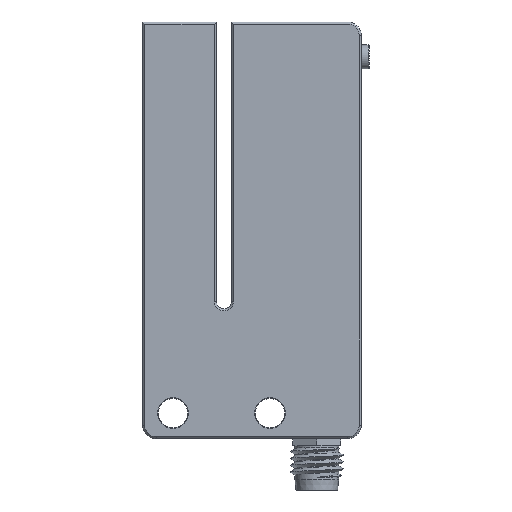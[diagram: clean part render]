
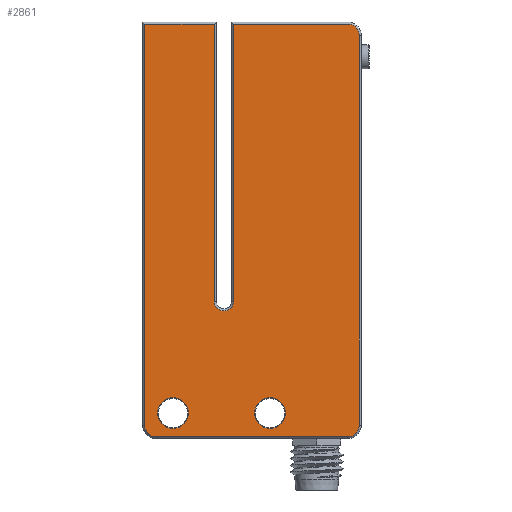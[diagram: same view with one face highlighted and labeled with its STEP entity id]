
A CAD part, front view. The second image highlights one B-rep face of the part: STEP entity #2861.
In plain terms, the highlighted planar face has unit normal (0, -1, 0).
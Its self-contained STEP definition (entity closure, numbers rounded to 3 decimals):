
#243=FACE_BOUND('',#807,.T.);
#244=FACE_BOUND('',#808,.T.);
#309=PLANE('',#3090);
#411=CIRCLE('',#3091,1.7);
#412=CIRCLE('',#3092,1.7);
#413=CIRCLE('',#3093,1.7);
#414=CIRCLE('',#3094,1.4);
#415=CIRCLE('',#3095,2.25);
#416=CIRCLE('',#3096,2.25);
#585=FACE_OUTER_BOUND('',#806,.T.);
#806=EDGE_LOOP('',(#2362,#2363,#2364,#2365,#2366,#2367,#2368,#2369,#2370,
#2371,#2372));
#807=EDGE_LOOP('',(#2373));
#808=EDGE_LOOP('',(#2374));
#1011=LINE('',#10009,#1235);
#1012=LINE('',#10011,#1236);
#1013=LINE('',#10013,#1237);
#1014=LINE('',#10017,#1238);
#1015=LINE('',#10021,#1239);
#1016=LINE('',#10025,#1240);
#1017=LINE('',#10027,#1241);
#1235=VECTOR('',#3615,40.6);
#1236=VECTOR('',#3616,10.2);
#1237=VECTOR('',#3617,58.7);
#1238=VECTOR('',#3620,28.);
#1239=VECTOR('',#3623,57.);
#1240=VECTOR('',#3626,16.7);
#1241=VECTOR('',#3627,40.6);
#1529=VERTEX_POINT('',#10007);
#1530=VERTEX_POINT('',#10008);
#1531=VERTEX_POINT('',#10010);
#1532=VERTEX_POINT('',#10012);
#1533=VERTEX_POINT('',#10014);
#1534=VERTEX_POINT('',#10016);
#1535=VERTEX_POINT('',#10018);
#1536=VERTEX_POINT('',#10020);
#1537=VERTEX_POINT('',#10022);
#1538=VERTEX_POINT('',#10024);
#1539=VERTEX_POINT('',#10026);
#1540=VERTEX_POINT('',#10029);
#1541=VERTEX_POINT('',#10031);
#1832=EDGE_CURVE('',#1529,#1530,#1011,.T.);
#1833=EDGE_CURVE('',#1530,#1531,#1012,.T.);
#1834=EDGE_CURVE('',#1531,#1532,#1013,.T.);
#1835=EDGE_CURVE('',#1532,#1533,#411,.T.);
#1836=EDGE_CURVE('',#1533,#1534,#1014,.T.);
#1837=EDGE_CURVE('',#1534,#1535,#412,.T.);
#1838=EDGE_CURVE('',#1535,#1536,#1015,.T.);
#1839=EDGE_CURVE('',#1536,#1537,#413,.T.);
#1840=EDGE_CURVE('',#1537,#1538,#1016,.T.);
#1841=EDGE_CURVE('',#1538,#1539,#1017,.T.);
#1842=EDGE_CURVE('',#1539,#1529,#414,.T.);
#1843=EDGE_CURVE('',#1540,#1540,#415,.T.);
#1844=EDGE_CURVE('',#1541,#1541,#416,.T.);
#2362=ORIENTED_EDGE('',*,*,#1832,.T.);
#2363=ORIENTED_EDGE('',*,*,#1833,.T.);
#2364=ORIENTED_EDGE('',*,*,#1834,.T.);
#2365=ORIENTED_EDGE('',*,*,#1835,.T.);
#2366=ORIENTED_EDGE('',*,*,#1836,.T.);
#2367=ORIENTED_EDGE('',*,*,#1837,.T.);
#2368=ORIENTED_EDGE('',*,*,#1838,.T.);
#2369=ORIENTED_EDGE('',*,*,#1839,.T.);
#2370=ORIENTED_EDGE('',*,*,#1840,.T.);
#2371=ORIENTED_EDGE('',*,*,#1841,.T.);
#2372=ORIENTED_EDGE('',*,*,#1842,.T.);
#2373=ORIENTED_EDGE('',*,*,#1843,.T.);
#2374=ORIENTED_EDGE('',*,*,#1844,.T.);
#2861=ADVANCED_FACE('',(#585,#243,#244),#309,.F.);
#3090=AXIS2_PLACEMENT_3D('',#10006,#3613,#3614);
#3091=AXIS2_PLACEMENT_3D('',#10015,#3618,#3619);
#3092=AXIS2_PLACEMENT_3D('',#10019,#3621,#3622);
#3093=AXIS2_PLACEMENT_3D('',#10023,#3624,#3625);
#3094=AXIS2_PLACEMENT_3D('',#10028,#3628,#3629);
#3095=AXIS2_PLACEMENT_3D('',#10030,#3630,#3631);
#3096=AXIS2_PLACEMENT_3D('',#10032,#3632,#3633);
#3613=DIRECTION('center_axis',(0.,1.,0.));
#3614=DIRECTION('ref_axis',(1.,0.,0.));
#3615=DIRECTION('',(0.,0.,1.));
#3616=DIRECTION('',(-1.,0.,0.));
#3617=DIRECTION('',(0.,0.,-1.));
#3618=DIRECTION('center_axis',(0.,-1.,0.));
#3619=DIRECTION('ref_axis',(-1.,0.,0.));
#3620=DIRECTION('',(1.,0.,0.));
#3621=DIRECTION('center_axis',(0.,-1.,0.));
#3622=DIRECTION('ref_axis',(0.,0.,-1.));
#3623=DIRECTION('',(0.,0.,1.));
#3624=DIRECTION('center_axis',(0.,-1.,0.));
#3625=DIRECTION('ref_axis',(1.,0.,0.));
#3626=DIRECTION('',(-1.,0.,0.));
#3627=DIRECTION('',(0.,0.,-1.));
#3628=DIRECTION('center_axis',(0.,1.,0.));
#3629=DIRECTION('ref_axis',(1.,0.,0.));
#3630=DIRECTION('center_axis',(0.,1.,0.));
#3631=DIRECTION('ref_axis',(1.,0.,0.));
#3632=DIRECTION('center_axis',(0.,1.,0.));
#3633=DIRECTION('ref_axis',(-1.,0.,0.));
#10006=CARTESIAN_POINT('Origin',(0.,-5.,0.));
#10007=CARTESIAN_POINT('',(-5.5,-5.,-10.4));
#10008=CARTESIAN_POINT('',(-5.5,-5.,30.2));
#10009=CARTESIAN_POINT('',(-5.5,-5.,-10.4));
#10010=CARTESIAN_POINT('',(-15.7,-5.,30.2));
#10011=CARTESIAN_POINT('',(-5.5,-5.,30.2));
#10012=CARTESIAN_POINT('',(-15.7,-5.,-28.5));
#10013=CARTESIAN_POINT('',(-15.7,-5.,30.2));
#10014=CARTESIAN_POINT('',(-14.,-5.,-30.2));
#10015=CARTESIAN_POINT('Origin',(-14.,-5.,-28.5));
#10016=CARTESIAN_POINT('',(14.,-5.,-30.2));
#10017=CARTESIAN_POINT('',(-14.,-5.,-30.2));
#10018=CARTESIAN_POINT('',(15.7,-5.,-28.5));
#10019=CARTESIAN_POINT('Origin',(14.,-5.,-28.5));
#10020=CARTESIAN_POINT('',(15.7,-5.,28.5));
#10021=CARTESIAN_POINT('',(15.7,-5.,-28.5));
#10022=CARTESIAN_POINT('',(14.,-5.,30.2));
#10023=CARTESIAN_POINT('Origin',(14.,-5.,28.5));
#10024=CARTESIAN_POINT('',(-2.7,-5.,30.2));
#10025=CARTESIAN_POINT('',(14.,-5.,30.2));
#10026=CARTESIAN_POINT('',(-2.7,-5.,-10.4));
#10027=CARTESIAN_POINT('',(-2.7,-5.,30.2));
#10028=CARTESIAN_POINT('Origin',(-4.1,-5.,-10.4));
#10029=CARTESIAN_POINT('',(-9.3,-5.,-26.75));
#10030=CARTESIAN_POINT('Origin',(-11.55,-5.,-26.75));
#10031=CARTESIAN_POINT('',(4.9,-5.,-26.75));
#10032=CARTESIAN_POINT('Origin',(2.65,-5.,-26.75));
